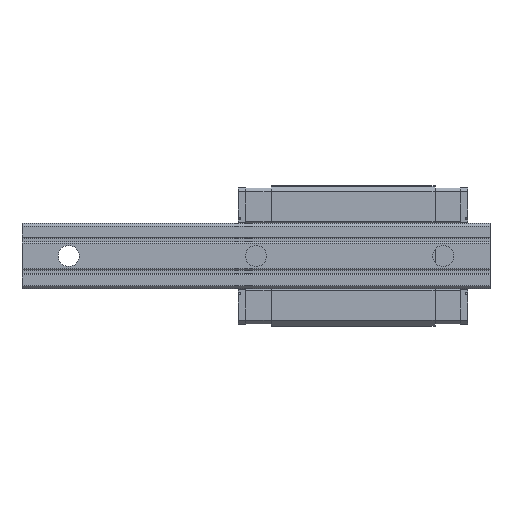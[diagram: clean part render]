
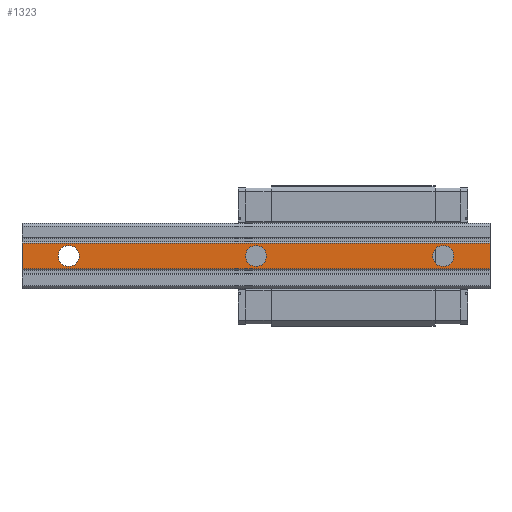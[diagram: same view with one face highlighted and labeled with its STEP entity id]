
A CAD part, front view. The second image highlights one B-rep face of the part: STEP entity #1323.
In plain terms, the highlighted planar face has unit normal (0, -1, 0).
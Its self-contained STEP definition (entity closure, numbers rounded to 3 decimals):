
#1323 = ADVANCED_FACE( '', ( #2729, #2730, #2731, #2732 ), #2733, .F. );
#2729 = FACE_BOUND( '', #4273, .T. );
#2730 = FACE_BOUND( '', #4274, .T. );
#2731 = FACE_BOUND( '', #4275, .T. );
#2732 = FACE_OUTER_BOUND( '', #4276, .T. );
#2733 = PLANE( '', #4277 );
#4273 = EDGE_LOOP( '', ( #7712 ) );
#4274 = EDGE_LOOP( '', ( #7713 ) );
#4275 = EDGE_LOOP( '', ( #7714 ) );
#4276 = EDGE_LOOP( '', ( #7715, #7716, #7717, #7718 ) );
#4277 = AXIS2_PLACEMENT_3D( '', #7719, #7720, #7721 );
#7712 = ORIENTED_EDGE( '', *, *, #10162, .F. );
#7713 = ORIENTED_EDGE( '', *, *, #9994, .F. );
#7714 = ORIENTED_EDGE( '', *, *, #10113, .F. );
#7715 = ORIENTED_EDGE( '', *, *, #10371, .F. );
#7716 = ORIENTED_EDGE( '', *, *, #10372, .F. );
#7717 = ORIENTED_EDGE( '', *, *, #10373, .T. );
#7718 = ORIENTED_EDGE( '', *, *, #10244, .T. );
#7719 = CARTESIAN_POINT( '', ( 100., 0., 12.7 ) );
#7720 = DIRECTION( '', ( 0., 1., 0. ) );
#7721 = DIRECTION( '', ( 0., 0., 1. ) );
#9994 = EDGE_CURVE( '', #12304, #12304, #12305, .T. );
#10113 = EDGE_CURVE( '', #12461, #12461, #12462, .T. );
#10162 = EDGE_CURVE( '', #12532, #12532, #12533, .T. );
#10244 = EDGE_CURVE( '', #12642, #12640, #12643, .T. );
#10371 = EDGE_CURVE( '', #12807, #12640, #12808, .T. );
#10372 = EDGE_CURVE( '', #12809, #12807, #12810, .T. );
#10373 = EDGE_CURVE( '', #12809, #12642, #12811, .T. );
#12304 = VERTEX_POINT( '', #15567 );
#12305 = CIRCLE( '', #15568, 4.5 );
#12461 = VERTEX_POINT( '', #15821 );
#12462 = CIRCLE( '', #15822, 4.5 );
#12532 = VERTEX_POINT( '', #15920 );
#12533 = CIRCLE( '', #15921, 4.5 );
#12640 = VERTEX_POINT( '', #16068 );
#12642 = VERTEX_POINT( '', #16071 );
#12643 = LINE( '', #16072, #16073 );
#12807 = VERTEX_POINT( '', #16299 );
#12808 = LINE( '', #16300, #16301 );
#12809 = VERTEX_POINT( '', #16302 );
#12810 = LINE( '', #16303, #16304 );
#12811 = LINE( '', #16305, #16306 );
#15567 = CARTESIAN_POINT( '', ( 80., 0., -4.5 ) );
#15568 = AXIS2_PLACEMENT_3D( '', #17653, #17654, #17655 );
#15821 = CARTESIAN_POINT( '', ( -80., 0., -4.5 ) );
#15822 = AXIS2_PLACEMENT_3D( '', #17764, #17765, #17766 );
#15920 = CARTESIAN_POINT( '', ( 0., 0., -4.5 ) );
#15921 = AXIS2_PLACEMENT_3D( '', #17822, #17823, #17824 );
#16068 = CARTESIAN_POINT( '', ( -100., 0., -5.5 ) );
#16071 = CARTESIAN_POINT( '', ( -100., 0., 5.5 ) );
#16072 = CARTESIAN_POINT( '', ( -100., 0., 12.7 ) );
#16073 = VECTOR( '', #17908, 1000. );
#16299 = CARTESIAN_POINT( '', ( 100., 0., -5.5 ) );
#16300 = CARTESIAN_POINT( '', ( 100., 0., -5.5 ) );
#16301 = VECTOR( '', #18035, 1000. );
#16302 = CARTESIAN_POINT( '', ( 100., 0., 5.5 ) );
#16303 = CARTESIAN_POINT( '', ( 100., 0., 12.7 ) );
#16304 = VECTOR( '', #18036, 1000. );
#16305 = CARTESIAN_POINT( '', ( 100., 0., 5.5 ) );
#16306 = VECTOR( '', #18037, 1000. );
#17653 = CARTESIAN_POINT( '', ( 80., 0., 0. ) );
#17654 = DIRECTION( '', ( 0., -1., 0. ) );
#17655 = DIRECTION( '', ( 0., 0., -1. ) );
#17764 = CARTESIAN_POINT( '', ( -80., 0., 0. ) );
#17765 = DIRECTION( '', ( 0., -1., 0. ) );
#17766 = DIRECTION( '', ( 0., 0., -1. ) );
#17822 = CARTESIAN_POINT( '', ( 0., 0., 0. ) );
#17823 = DIRECTION( '', ( 0., -1., 0. ) );
#17824 = DIRECTION( '', ( 0., 0., -1. ) );
#17908 = DIRECTION( '', ( 0., 0., -1. ) );
#18035 = DIRECTION( '', ( -1., 0., 0. ) );
#18036 = DIRECTION( '', ( 0., 0., -1. ) );
#18037 = DIRECTION( '', ( -1., 0., 0. ) );
